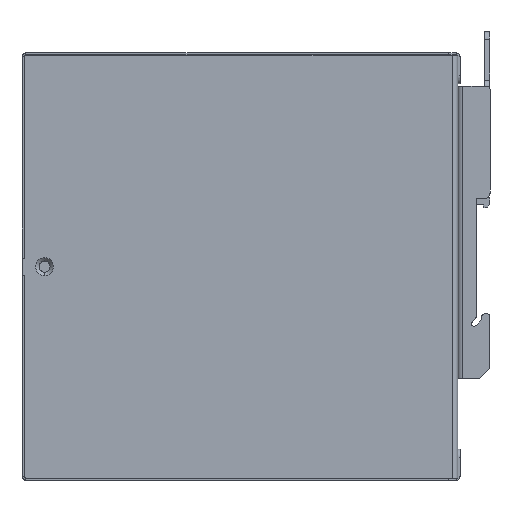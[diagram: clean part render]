
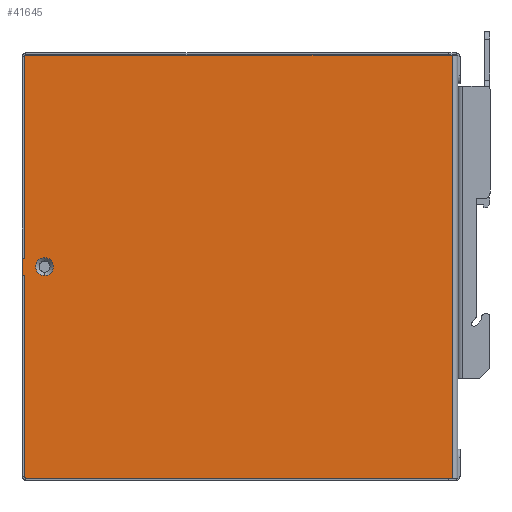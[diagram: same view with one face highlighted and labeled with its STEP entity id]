
A CAD part, left-side view. The second image highlights one B-rep face of the part: STEP entity #41645.
In plain terms, the highlighted planar face has unit normal (-1, 0, 0).
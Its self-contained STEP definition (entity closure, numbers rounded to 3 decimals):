
#1425 = CARTESIAN_POINT ( 'NONE',  ( 0., 127.4, 59.4 ) ) ;
#2381 = ORIENTED_EDGE ( 'NONE', *, *, #21527, .T. ) ;
#2535 = FACE_BOUND ( 'NONE', #48795, .T. ) ;
#2641 = DIRECTION ( 'NONE',  ( 0., 0., -1. ) ) ;
#3142 = CARTESIAN_POINT ( 'NONE',  ( 0., 1.6, 123.8 ) ) ;
#3994 = VERTEX_POINT ( 'NONE', #9238 ) ;
#4115 = CARTESIAN_POINT ( 'NONE',  ( 0., 120.841, 61.9 ) ) ;
#4335 = VECTOR ( 'NONE', #28337, 1000. ) ;
#7304 = CARTESIAN_POINT ( 'NONE',  ( 0., 125.8, 123.8 ) ) ;
#8017 = CARTESIAN_POINT ( 'NONE',  ( 0., 125.8, 1. ) ) ;
#8280 = CARTESIAN_POINT ( 'NONE',  ( 0., 0., 123.8 ) ) ;
#9238 = CARTESIAN_POINT ( 'NONE',  ( 0., 120.841, 59.3 ) ) ;
#9460 = LINE ( 'NONE', #66565, #4335 ) ;
#10581 = VECTOR ( 'NONE', #10788, 1000. ) ;
#10788 = DIRECTION ( 'NONE',  ( 0., -1., 0. ) ) ;
#11437 = CARTESIAN_POINT ( 'NONE',  ( 0., 0., 123.8 ) ) ;
#11832 = DIRECTION ( 'NONE',  ( 0., -1., 0. ) ) ;
#11968 = ORIENTED_EDGE ( 'NONE', *, *, #55909, .F. ) ;
#12681 = VERTEX_POINT ( 'NONE', #15288 ) ;
#12800 = EDGE_CURVE ( 'NONE', #77392, #48388, #67444, .T. ) ;
#13152 = EDGE_CURVE ( 'NONE', #27447, #3994, #31302, .T. ) ;
#13275 = ORIENTED_EDGE ( 'NONE', *, *, #42557, .T. ) ;
#13279 = LINE ( 'NONE', #38303, #63028 ) ;
#13321 = VECTOR ( 'NONE', #11832, 1000. ) ;
#13608 = VECTOR ( 'NONE', #2641, 1000. ) ;
#14141 = ORIENTED_EDGE ( 'NONE', *, *, #13152, .T. ) ;
#15288 = CARTESIAN_POINT ( 'NONE',  ( 0., 126.8, 1. ) ) ;
#15645 = DIRECTION ( 'NONE',  ( 1., 0., 0. ) ) ;
#15975 = ORIENTED_EDGE ( 'NONE', *, *, #68167, .T. ) ;
#18655 = CARTESIAN_POINT ( 'NONE',  ( 0., 127.4, 64.4 ) ) ;
#18949 = ORIENTED_EDGE ( 'NONE', *, *, #40069, .F. ) ;
#20430 = CARTESIAN_POINT ( 'NONE',  ( 0., 126.8, 64.4 ) ) ;
#20628 = CIRCLE ( 'NONE', #69195, 1. ) ;
#21527 = EDGE_CURVE ( 'NONE', #64728, #55003, #34890, .T. ) ;
#23212 = VECTOR ( 'NONE', #78733, 1000. ) ;
#23414 = DIRECTION ( 'NONE',  ( 1., 0., 0. ) ) ;
#23972 = CIRCLE ( 'NONE', #39718, 2.6 ) ;
#25325 = CARTESIAN_POINT ( 'NONE',  ( 0., 120.841, 64.5 ) ) ;
#26692 = VERTEX_POINT ( 'NONE', #1425 ) ;
#27447 = VERTEX_POINT ( 'NONE', #25325 ) ;
#27567 = FACE_OUTER_BOUND ( 'NONE', #55709, .T. ) ;
#28337 = DIRECTION ( 'NONE',  ( 0., 0., -1. ) ) ;
#28418 = ORIENTED_EDGE ( 'NONE', *, *, #29402, .T. ) ;
#29402 = EDGE_CURVE ( 'NONE', #47074, #63076, #67479, .T. ) ;
#30992 = CARTESIAN_POINT ( 'NONE',  ( 0., 1.6, 123.8 ) ) ;
#31261 = DIRECTION ( 'NONE',  ( 0., -1., 0. ) ) ;
#31302 = CIRCLE ( 'NONE', #77236, 2.6 ) ;
#31447 = DIRECTION ( 'NONE',  ( 0., 0., -1. ) ) ;
#32248 = DIRECTION ( 'NONE',  ( -1., 0., 0. ) ) ;
#32592 = DIRECTION ( 'NONE',  ( -1., 0., 0. ) ) ;
#34534 = PLANE ( 'NONE',  #46278 ) ;
#34890 = CIRCLE ( 'NONE', #45412, 1. ) ;
#35278 = ORIENTED_EDGE ( 'NONE', *, *, #12800, .F. ) ;
#36595 = CARTESIAN_POINT ( 'NONE',  ( 0., 127.4, 64.4 ) ) ;
#38091 = CARTESIAN_POINT ( 'NONE',  ( 0., 126.8, 59.4 ) ) ;
#38303 = CARTESIAN_POINT ( 'NONE',  ( 0., 127.4, 59.4 ) ) ;
#39080 = DIRECTION ( 'NONE',  ( 0., 0., -1. ) ) ;
#39718 = AXIS2_PLACEMENT_3D ( 'NONE', #4115, #23414, #41886 ) ;
#39961 = CARTESIAN_POINT ( 'NONE',  ( 0., 127.4, 59.4 ) ) ;
#40069 = EDGE_CURVE ( 'NONE', #26692, #77392, #78194, .T. ) ;
#41645 = ADVANCED_FACE ( 'NONE', ( #2535, #27567 ), #34534, .F. ) ;
#41886 = DIRECTION ( 'NONE',  ( 0., 0., -1. ) ) ;
#42557 = EDGE_CURVE ( 'NONE', #63593, #12681, #53144, .T. ) ;
#42775 = ORIENTED_EDGE ( 'NONE', *, *, #61878, .T. ) ;
#44281 = CARTESIAN_POINT ( 'NONE',  ( 0., 125.8, 0. ) ) ;
#45412 = AXIS2_PLACEMENT_3D ( 'NONE', #69186, #32592, #50275 ) ;
#46278 = AXIS2_PLACEMENT_3D ( 'NONE', #8280, #15645, #39080 ) ;
#47074 = VERTEX_POINT ( 'NONE', #44281 ) ;
#48388 = VERTEX_POINT ( 'NONE', #20430 ) ;
#48795 = EDGE_LOOP ( 'NONE', ( #14141, #71921 ) ) ;
#48840 = CARTESIAN_POINT ( 'NONE',  ( 0., 120.841, 61.9 ) ) ;
#49451 = ORIENTED_EDGE ( 'NONE', *, *, #65693, .T. ) ;
#50275 = DIRECTION ( 'NONE',  ( 0., 0., -1. ) ) ;
#51488 = VECTOR ( 'NONE', #66983, 1000. ) ;
#51819 = CARTESIAN_POINT ( 'NONE',  ( 0., 126.8, 122.8 ) ) ;
#53144 = LINE ( 'NONE', #71246, #13608 ) ;
#53530 = CARTESIAN_POINT ( 'NONE',  ( 0., 0., 0. ) ) ;
#55003 = VERTEX_POINT ( 'NONE', #51819 ) ;
#55709 = EDGE_LOOP ( 'NONE', ( #11968, #2381, #15975, #35278, #18949, #49451, #13275, #42775, #28418, #74549 ) ) ;
#55909 = EDGE_CURVE ( 'NONE', #64728, #73266, #73877, .T. ) ;
#60226 = EDGE_CURVE ( 'NONE', #73266, #63076, #70948, .T. ) ;
#61878 = EDGE_CURVE ( 'NONE', #12681, #47074, #20628, .T. ) ;
#62398 = DIRECTION ( 'NONE',  ( 0., 0., -1. ) ) ;
#63028 = VECTOR ( 'NONE', #63799, 1000. ) ;
#63076 = VERTEX_POINT ( 'NONE', #70936 ) ;
#63593 = VERTEX_POINT ( 'NONE', #38091 ) ;
#63799 = DIRECTION ( 'NONE',  ( 0., -1., 0. ) ) ;
#64728 = VERTEX_POINT ( 'NONE', #7304 ) ;
#65693 = EDGE_CURVE ( 'NONE', #26692, #63593, #13279, .T. ) ;
#66565 = CARTESIAN_POINT ( 'NONE',  ( 0., 126.8, 123.8 ) ) ;
#66691 = VECTOR ( 'NONE', #31261, 1000. ) ;
#66983 = DIRECTION ( 'NONE',  ( 0., 0., 1. ) ) ;
#67444 = LINE ( 'NONE', #36595, #66691 ) ;
#67479 = LINE ( 'NONE', #53530, #10581 ) ;
#68152 = EDGE_CURVE ( 'NONE', #3994, #27447, #23972, .T. ) ;
#68167 = EDGE_CURVE ( 'NONE', #55003, #48388, #9460, .T. ) ;
#69186 = CARTESIAN_POINT ( 'NONE',  ( 0., 125.8, 122.8 ) ) ;
#69195 = AXIS2_PLACEMENT_3D ( 'NONE', #8017, #32248, #31447 ) ;
#70936 = CARTESIAN_POINT ( 'NONE',  ( 0., 1.6, 0. ) ) ;
#70948 = LINE ( 'NONE', #3142, #23212 ) ;
#71246 = CARTESIAN_POINT ( 'NONE',  ( 0., 126.8, 123.8 ) ) ;
#71921 = ORIENTED_EDGE ( 'NONE', *, *, #68152, .T. ) ;
#73266 = VERTEX_POINT ( 'NONE', #30992 ) ;
#73877 = LINE ( 'NONE', #11437, #13321 ) ;
#73907 = DIRECTION ( 'NONE',  ( 1., 0., 0. ) ) ;
#74549 = ORIENTED_EDGE ( 'NONE', *, *, #60226, .F. ) ;
#77236 = AXIS2_PLACEMENT_3D ( 'NONE', #48840, #73907, #62398 ) ;
#77392 = VERTEX_POINT ( 'NONE', #18655 ) ;
#78194 = LINE ( 'NONE', #39961, #51488 ) ;
#78733 = DIRECTION ( 'NONE',  ( 0., 0., -1. ) ) ;
